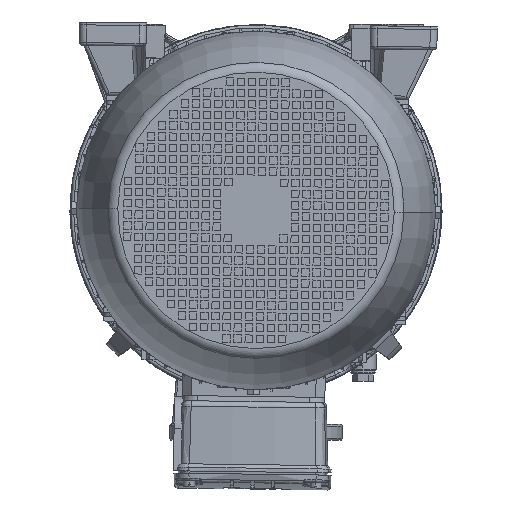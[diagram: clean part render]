
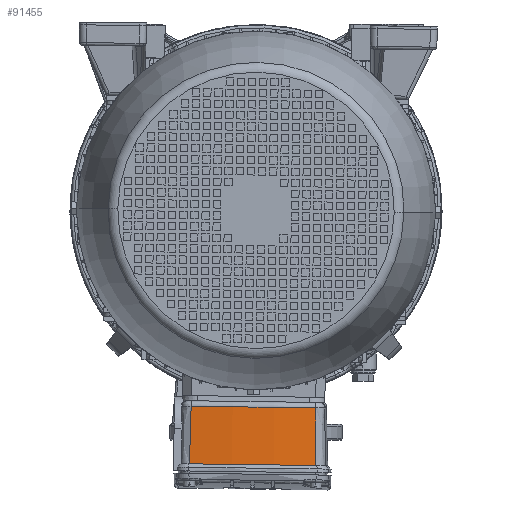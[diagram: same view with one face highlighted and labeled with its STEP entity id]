
A CAD part, front view. The second image highlights one B-rep face of the part: STEP entity #91455.
In plain terms, the highlighted conical face has half-angle 1 degrees and reference radius 666 mm.
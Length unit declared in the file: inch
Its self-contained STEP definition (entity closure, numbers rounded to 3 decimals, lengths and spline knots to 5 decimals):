
#31099 = VERTEX_POINT ( 'NONE', #63191 ) ;
#36372 = EDGE_CURVE ( 'NONE', #162326, #31099, #260699, .T. ) ;
#39021 = CARTESIAN_POINT ( 'NONE',  ( 2.64364, 8.74241, 0.14099 ) ) ;
#40407 = CARTESIAN_POINT ( 'NONE',  ( -2.67708, 10.75928, 0.10902 ) ) ;
#41666 = ORIENTED_EDGE ( 'NONE', *, *, #131809, .F. ) ;
#44409 = CARTESIAN_POINT ( 'NONE',  ( -2.64364, 8.74241, 0.14099 ) ) ;
#56485 = CARTESIAN_POINT ( 'NONE',  ( 0., 8.32265, 26.18714 ) ) ;
#57606 = DIRECTION ( 'NONE',  ( 0., 1., 0. ) ) ;
#60152 = DIRECTION ( 'NONE',  ( 0., 0., 1. ) ) ;
#63191 = CARTESIAN_POINT ( 'NONE',  ( -2.63667, 8.32265, 0.14765 ) ) ;
#85154 = CARTESIAN_POINT ( 'NONE',  ( -2.67058, 10.36683, 0.11524 ) ) ;
#91455 = ADVANCED_FACE ( 'NONE', ( #182348 ), #107742, .T. ) ;
#92961 = CARTESIAN_POINT ( 'NONE',  ( 2.67708, 10.75928, 0.10902 ) ) ;
#95409 = EDGE_CURVE ( 'NONE', #31099, #171617, #167248, .T. ) ;
#98524 = EDGE_LOOP ( 'NONE', ( #167591, #212243, #228931, #41666 ) ) ;
#100111 = CARTESIAN_POINT ( 'NONE',  ( 2.63667, 8.32265, 0.14765 ) ) ;
#100177 = CARTESIAN_POINT ( 'NONE',  ( -2.63667, 8.32265, 0.14765 ) ) ;
#101367 = AXIS2_PLACEMENT_3D ( 'NONE', #114748, #57606, #216594 ) ;
#107742 = CONICAL_SURFACE ( 'NONE', #133746, 26.22047, 0.017 ) ;
#114748 = CARTESIAN_POINT ( 'NONE',  ( 0., 10.75928, 26.18714 ) ) ;
#125940 = CARTESIAN_POINT ( 'NONE',  ( -2.66407, 9.97438, 0.12146 ) ) ;
#131809 = EDGE_CURVE ( 'NONE', #189354, #171617, #266085, .T. ) ;
#133746 = AXIS2_PLACEMENT_3D ( 'NONE', #163335, #246144, #60152 ) ;
#140288 = B_SPLINE_CURVE_WITH_KNOTS ( 'NONE', 3,
 ( #260355, #165236, #185580, #203260, #143556, #39021, #100111 ),
 .UNSPECIFIED., .F., .F.,
 ( 4, 3, 4 ),
 ( 0.00772, 0.03763, 0.06962 ),
 .UNSPECIFIED. ) ;
#143556 = CARTESIAN_POINT ( 'NONE',  ( 2.6506, 9.16217, 0.13434 ) ) ;
#160318 = EDGE_CURVE ( 'NONE', #189354, #162326, #140288, .T. ) ;
#162326 = VERTEX_POINT ( 'NONE', #189632 ) ;
#163335 = CARTESIAN_POINT ( 'NONE',  ( 0., 11.06299, 26.18714 ) ) ;
#165236 = CARTESIAN_POINT ( 'NONE',  ( 2.67058, 10.36683, 0.11524 ) ) ;
#167248 = B_SPLINE_CURVE_WITH_KNOTS ( 'NONE', 3,
 ( #100177, #44409, #249425, #248098, #125940, #85154, #40407 ),
 .UNSPECIFIED., .F., .F.,
 ( 4, 3, 4 ),
 ( 0.0059, 0.03789, 0.0678 ),
 .UNSPECIFIED. ) ;
#167591 = ORIENTED_EDGE ( 'NONE', *, *, #160318, .T. ) ;
#171617 = VERTEX_POINT ( 'NONE', #262978 ) ;
#182348 = FACE_OUTER_BOUND ( 'NONE', #98524, .T. ) ;
#185580 = CARTESIAN_POINT ( 'NONE',  ( 2.66407, 9.97438, 0.12146 ) ) ;
#189354 = VERTEX_POINT ( 'NONE', #92961 ) ;
#189632 = CARTESIAN_POINT ( 'NONE',  ( 2.63667, 8.32265, 0.14765 ) ) ;
#203260 = CARTESIAN_POINT ( 'NONE',  ( 2.65756, 9.58193, 0.12768 ) ) ;
#212243 = ORIENTED_EDGE ( 'NONE', *, *, #36372, .T. ) ;
#216594 = DIRECTION ( 'NONE',  ( 0., 0., 1. ) ) ;
#222110 = DIRECTION ( 'NONE',  ( 0., 0., 1. ) ) ;
#228931 = ORIENTED_EDGE ( 'NONE', *, *, #95409, .T. ) ;
#243835 = DIRECTION ( 'NONE',  ( 0., 1., 0. ) ) ;
#246144 = DIRECTION ( 'NONE',  ( 0., 1., 0. ) ) ;
#248098 = CARTESIAN_POINT ( 'NONE',  ( -2.65756, 9.58193, 0.12768 ) ) ;
#249425 = CARTESIAN_POINT ( 'NONE',  ( -2.6506, 9.16217, 0.13434 ) ) ;
#260355 = CARTESIAN_POINT ( 'NONE',  ( 2.67708, 10.75928, 0.10902 ) ) ;
#260699 = CIRCLE ( 'NONE', #264996, 26.17264 ) ;
#262978 = CARTESIAN_POINT ( 'NONE',  ( -2.67708, 10.75928, 0.10902 ) ) ;
#264996 = AXIS2_PLACEMENT_3D ( 'NONE', #56485, #243835, #222110 ) ;
#266085 = CIRCLE ( 'NONE', #101367, 26.21517 ) ;
